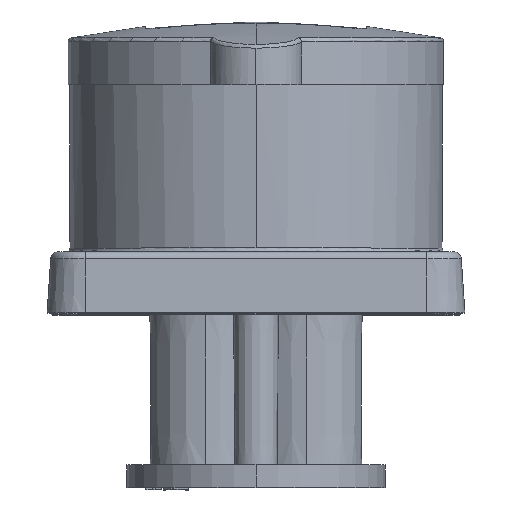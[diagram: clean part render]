
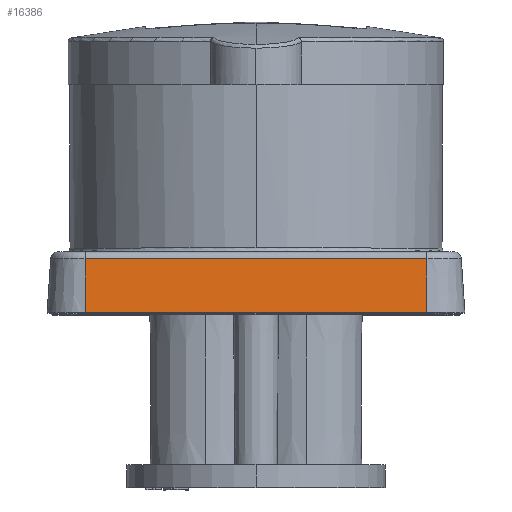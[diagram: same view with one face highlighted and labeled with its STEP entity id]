
A CAD part, top view. The second image highlights one B-rep face of the part: STEP entity #16386.
In plain terms, the highlighted planar face has unit normal (0, 0.07, 0.998).
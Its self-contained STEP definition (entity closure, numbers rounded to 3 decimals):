
#80 = VECTOR ( 'NONE', #14488, 1000. ) ;
#475 = VECTOR ( 'NONE', #17050, 1000. ) ;
#1390 = CARTESIAN_POINT ( 'NONE',  ( -4.67, 124.824, -349.554 ) ) ;
#1527 = DIRECTION ( 'NONE',  ( 0., -0.998, 0.07 ) ) ;
#2196 = EDGE_CURVE ( 'NONE', #19456, #7314, #12856, .T. ) ;
#3187 = CARTESIAN_POINT ( 'NONE',  ( -4.67, 131.894, -350.049 ) ) ;
#3234 = ORIENTED_EDGE ( 'NONE', *, *, #17009, .T. ) ;
#3926 = DIRECTION ( 'NONE',  ( -1., 0., 0. ) ) ;
#3997 = PLANE ( 'NONE',  #8976 ) ;
#4973 = LINE ( 'NONE', #8151, #80 ) ;
#6431 = ORIENTED_EDGE ( 'NONE', *, *, #13046, .T. ) ;
#7314 = VERTEX_POINT ( 'NONE', #1390 ) ;
#7560 = LINE ( 'NONE', #17146, #475 ) ;
#8151 = CARTESIAN_POINT ( 'NONE',  ( 17.83, 124.824, -349.554 ) ) ;
#8976 = AXIS2_PLACEMENT_3D ( 'NONE', #12038, #10452, #15305 ) ;
#9326 = VECTOR ( 'NONE', #3926, 1000. ) ;
#10452 = DIRECTION ( 'NONE',  ( 0., 0.07, 0.998 ) ) ;
#11671 = VERTEX_POINT ( 'NONE', #17869 ) ;
#11973 = EDGE_CURVE ( 'NONE', #11671, #7314, #4973, .T. ) ;
#12038 = CARTESIAN_POINT ( 'NONE',  ( 17.83, 124.824, -349.554 ) ) ;
#12539 = CARTESIAN_POINT ( 'NONE',  ( -4.67, 124.824, -349.554 ) ) ;
#12856 = LINE ( 'NONE', #12539, #17620 ) ;
#13046 = EDGE_CURVE ( 'NONE', #11671, #15154, #7560, .T. ) ;
#13270 = ORIENTED_EDGE ( 'NONE', *, *, #2196, .T. ) ;
#13614 = FACE_OUTER_BOUND ( 'NONE', #14626, .T. ) ;
#14209 = CARTESIAN_POINT ( 'NONE',  ( 40.33, 131.894, -350.049 ) ) ;
#14488 = DIRECTION ( 'NONE',  ( -1., 0., 0. ) ) ;
#14626 = EDGE_LOOP ( 'NONE', ( #6431, #3234, #13270, #19558 ) ) ;
#15154 = VERTEX_POINT ( 'NONE', #14209 ) ;
#15305 = DIRECTION ( 'NONE',  ( 1., 0., 0. ) ) ;
#16386 = ADVANCED_FACE ( 'NONE', ( #13614 ), #3997, .T. ) ;
#17009 = EDGE_CURVE ( 'NONE', #15154, #19456, #18082, .T. ) ;
#17050 = DIRECTION ( 'NONE',  ( 0., 0.998, -0.07 ) ) ;
#17146 = CARTESIAN_POINT ( 'NONE',  ( 40.33, 124.824, -349.554 ) ) ;
#17620 = VECTOR ( 'NONE', #1527, 1000. ) ;
#17869 = CARTESIAN_POINT ( 'NONE',  ( 40.33, 124.824, -349.554 ) ) ;
#18082 = LINE ( 'NONE', #20072, #9326 ) ;
#19456 = VERTEX_POINT ( 'NONE', #3187 ) ;
#19558 = ORIENTED_EDGE ( 'NONE', *, *, #11973, .F. ) ;
#20072 = CARTESIAN_POINT ( 'NONE',  ( 17.83, 131.894, -350.049 ) ) ;
